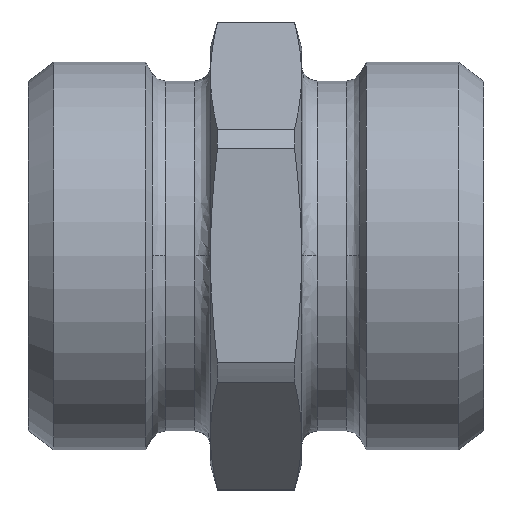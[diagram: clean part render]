
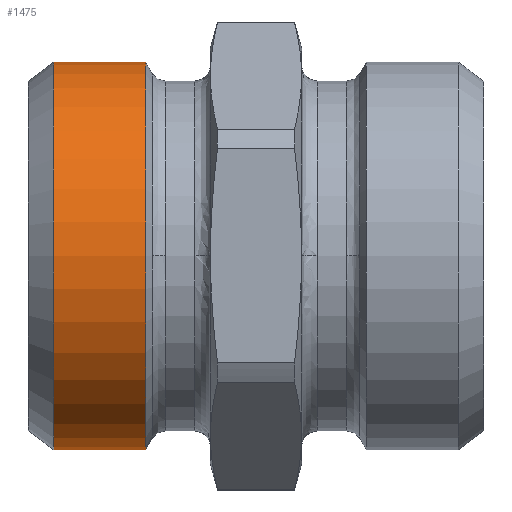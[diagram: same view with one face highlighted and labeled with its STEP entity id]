
A CAD part, top view. The second image highlights one B-rep face of the part: STEP entity #1475.
In plain terms, the highlighted cylindrical face has radius 14.91 mm (diameter 29.82 mm), a partial arc.
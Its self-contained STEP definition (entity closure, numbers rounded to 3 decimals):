
#859=CARTESIAN_POINT('',(0.,-14.91,15.563));
#860=VERTEX_POINT('',#859);
#861=CARTESIAN_POINT('',(0.,-14.91,8.493));
#862=VERTEX_POINT('',#861);
#863=CARTESIAN_POINT('',(0.,-14.91,15.563));
#864=DIRECTION('',(0.0,0.0,-1.0));
#865=VECTOR('',#864,7.07);
#866=LINE('',#863,#865);
#867=EDGE_CURVE('',#860,#862,#866,.T.);
#869=CARTESIAN_POINT('',(0.,14.91,15.563));
#870=VERTEX_POINT('',#869);
#878=CARTESIAN_POINT('',(0.,14.91,8.493));
#879=VERTEX_POINT('',#878);
#880=CARTESIAN_POINT('',(0.,14.91,8.493));
#881=DIRECTION('',(0.0,0.0,1.0));
#882=VECTOR('',#881,7.07);
#883=LINE('',#880,#882);
#884=EDGE_CURVE('',#879,#870,#883,.T.);
#1351=CARTESIAN_POINT('',(0.,0.,8.493));
#1352=DIRECTION('',(0.0,0.0,-1.0));
#1353=DIRECTION('',(0.0,-1.0,0.0));
#1354=AXIS2_PLACEMENT_3D('',#1351,#1352,#1353);
#1355=CIRCLE('',#1354,14.91);
#1356=EDGE_CURVE('',#879,#862,#1355,.T.);
#1452=CARTESIAN_POINT('',(0.,0.,15.563));
#1453=DIRECTION('',(0.0,0.0,-1.0));
#1454=DIRECTION('',(0.0,-1.0,0.0));
#1455=AXIS2_PLACEMENT_3D('',#1452,#1453,#1454);
#1456=CIRCLE('',#1455,14.91);
#1457=EDGE_CURVE('',#870,#860,#1456,.T.);
#1464=CARTESIAN_POINT('',(0.,0.,12.028));
#1465=DIRECTION('',(0.,0.,-1.0));
#1466=DIRECTION('',(0.0,-1.0,0.0));
#1467=AXIS2_PLACEMENT_3D('',#1464,#1465,#1466);
#1468=CYLINDRICAL_SURFACE('',#1467,14.91);
#1469=ORIENTED_EDGE('',*,*,#867,.T.);
#1470=ORIENTED_EDGE('',*,*,#1356,.F.);
#1471=ORIENTED_EDGE('',*,*,#884,.T.);
#1472=ORIENTED_EDGE('',*,*,#1457,.T.);
#1473=EDGE_LOOP('',(#1469,#1470,#1471,#1472));
#1474=FACE_OUTER_BOUND('',#1473,.T.);
#1475=ADVANCED_FACE('',(#1474),#1468,.T.);
